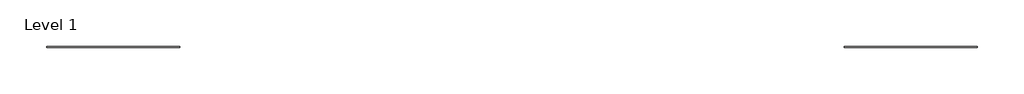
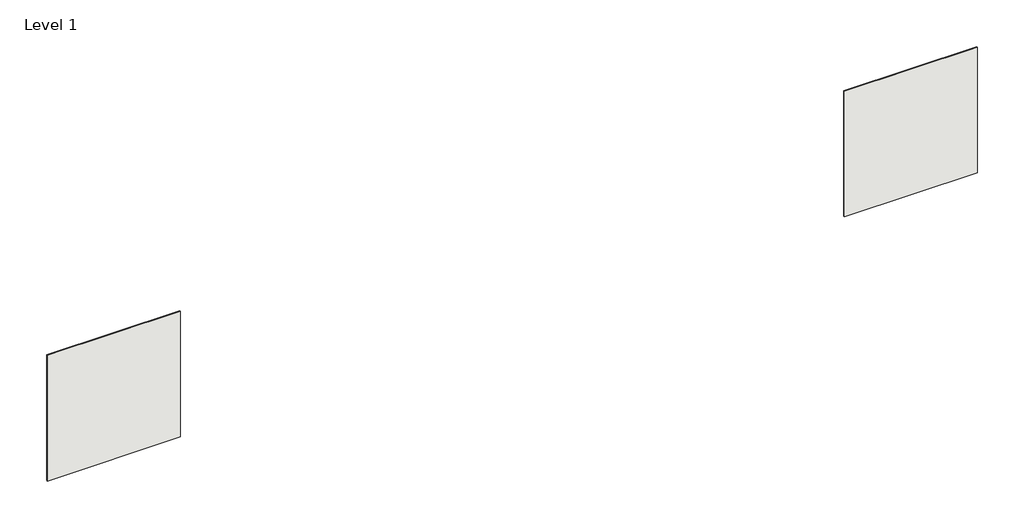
# One storey: 2 coverings.
"""IFC4 building model written with IfcOpenShell, lengths in millimetres."""

from ifc_helpers import new_model, si_unit, origin, origin_with_axes, place, context, project, spatial, polyline, outline, extrude, element, save

model = new_model("IFC4")

# Units and contexts
model_context = context("Model", 3, world=origin())
ifc_project = project(units=[si_unit("LENGTHUNIT", "METRE", prefix="MILLI")], contexts=[model_context])

# Site, building, storey
site = spatial("IfcSite", under=ifc_project)
building = spatial("IfcBuilding", under=site)
storey = spatial("IfcBuildingStorey", under=building, Name="Level 1", Elevation=0.0)

# Coverings
placement = place(None, origin())
element("IfcCovering", 1, ObjectType="LOVE TILES-SENSE-EXOTIC DECORATION-35x100-MATT RECTIFIED-GREEN", at=placement, inside=storey, context=model_context, shape_type="SweptSolid", body=[
    extrude(outline(polyline([(29001.6949906, -26211.5513387), (28001.6949906, -26211.5513387), (28001.6949906, -26203.5513387), (29001.6949906, -26203.5513387), (29001.6949906, -26211.5513387)])), origin_with_axes(), (0.0, 0.0, 1.0), 1000.0),
])
element("IfcCovering", 2, ObjectType="LOVE TILES-SENSE-EXOTIC DECORATION-35x100-MATT RECTIFIED-GREY", at=placement, inside=storey, context=model_context, shape_type="SweptSolid", body=[
    extrude(outline(polyline([(34997.0720096, -26211.5513387), (33997.0720096, -26211.5513387), (33997.0720096, -26203.5513387), (34997.0720096, -26203.5513387), (34997.0720096, -26211.5513387)])), origin_with_axes(), (0.0, 0.0, 1.0), 1000.0),
])

save(model, "model.ifc")
